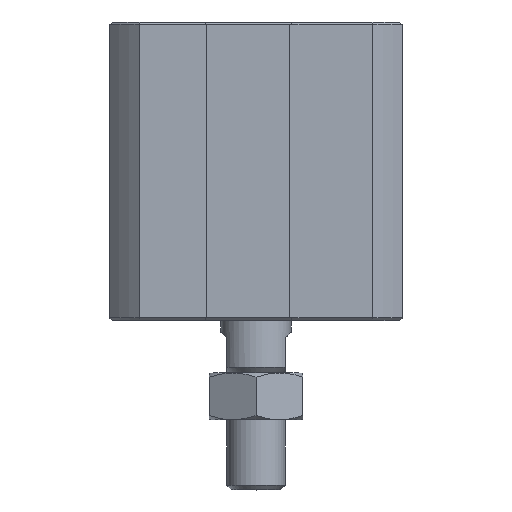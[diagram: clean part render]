
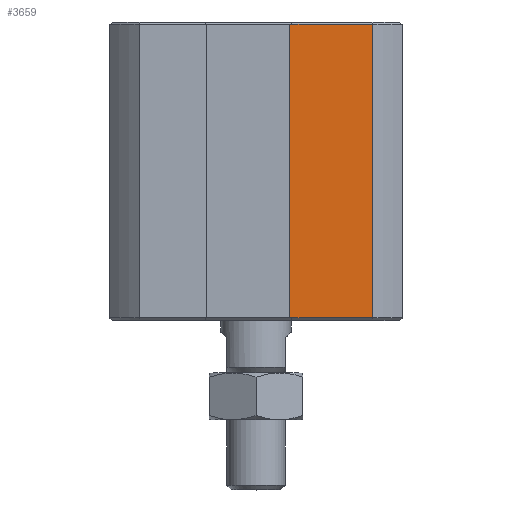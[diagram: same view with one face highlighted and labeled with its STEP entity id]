
A CAD part, top view. The second image highlights one B-rep face of the part: STEP entity #3659.
In plain terms, the highlighted planar face has unit normal (0, 0, 1).
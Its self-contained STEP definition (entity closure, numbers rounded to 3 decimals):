
#139=LINE('',#5069,#329);
#142=LINE('',#5075,#332);
#143=LINE('',#5078,#333);
#144=LINE('',#5079,#334);
#329=VECTOR('',#4305,1000.);
#332=VECTOR('',#4310,1000.);
#333=VECTOR('',#4311,1000.);
#334=VECTOR('',#4312,1000.);
#494=PLANE('',#3889);
#714=ORIENTED_EDGE('',*,*,#1368,.F.);
#715=ORIENTED_EDGE('',*,*,#1369,.T.);
#716=ORIENTED_EDGE('',*,*,#1365,.T.);
#717=ORIENTED_EDGE('',*,*,#1370,.T.);
#1365=EDGE_CURVE('',#1699,#1700,#139,.T.);
#1368=EDGE_CURVE('',#1701,#1702,#142,.T.);
#1369=EDGE_CURVE('',#1701,#1699,#143,.T.);
#1370=EDGE_CURVE('',#1700,#1702,#144,.T.);
#1699=VERTEX_POINT('',#5070);
#1700=VERTEX_POINT('',#5071);
#1701=VERTEX_POINT('',#5076);
#1702=VERTEX_POINT('',#5077);
#1994=EDGE_LOOP('',(#714,#715,#716,#717));
#2218=FACE_BOUND('',#1994,.T.);
#3659=ADVANCED_FACE('',(#2218),#494,.F.);
#3889=AXIS2_PLACEMENT_3D('',#5074,#4308,#4309);
#4305=DIRECTION('',(0.,-1.,0.));
#4308=DIRECTION('',(0.,0.,-1.));
#4309=DIRECTION('',(-1.,0.,0.));
#4310=DIRECTION('',(0.,-1.,0.));
#4311=DIRECTION('',(-1.,0.,0.));
#4312=DIRECTION('',(1.,0.,0.));
#5069=CARTESIAN_POINT('',(2.9,25.5,12.5));
#5070=CARTESIAN_POINT('',(2.9,25.3,12.5));
#5071=CARTESIAN_POINT('',(2.9,0.2,12.5));
#5074=CARTESIAN_POINT('',(2.9,25.5,12.5));
#5075=CARTESIAN_POINT('',(9.987,25.5,12.5));
#5076=CARTESIAN_POINT('',(9.987,25.3,12.5));
#5077=CARTESIAN_POINT('',(9.987,0.2,12.5));
#5078=CARTESIAN_POINT('',(2.9,25.3,12.5));
#5079=CARTESIAN_POINT('',(2.9,0.2,12.5));
